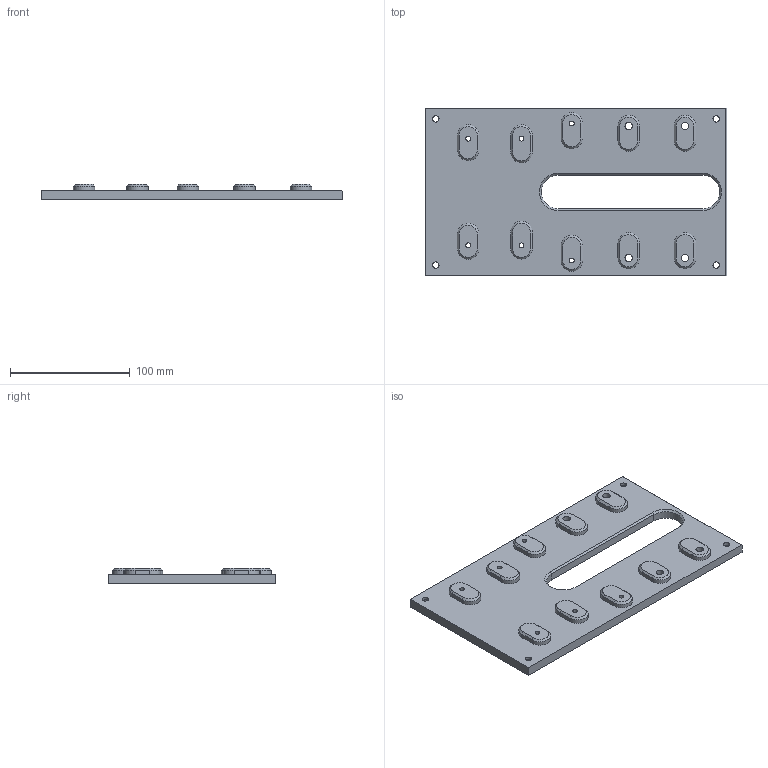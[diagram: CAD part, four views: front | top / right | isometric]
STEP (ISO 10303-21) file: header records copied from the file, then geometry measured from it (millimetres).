
FILE_DESCRIPTION(/* description */ (''),/* implementation_level */ '2;1');
FILE_NAME(/* name */ 'base.step',/* time_stamp */ '2026-06-03T23:55:42+01:00',/* author */ (''),/* organization */ (''),/* preprocessor_version */ 'ST-DEVELOPER v20.1',/* originating_system */ 'Autodesk Translation Framework v15.8.0.0',/* authorisation */ '');
FILE_SCHEMA (('AUTOMOTIVE_DESIGN { 1 0 10303 214 3 1 1 }'));
Length unit declared in the file: millimetre
Products named in the file (1): base
Bounding box: 252 x 140 x 13 mm (x, y, z)
Volume: 267406.3 mm3; surface area: 76830 mm2
Topology: 1 solids, 1 shells, 127 faces, 289 edges, 178 vertices
Faces by surface type: plane 65, cylinder 40, cone 22
Full cylindrical faces by diameter (mm): 4 x6, 5.3 x4, 6.2 x4, 12 x4
Entity records: 3629 total; most frequent: DIRECTION 644, CARTESIAN_POINT 604, ORIENTED_EDGE 578, EDGE_CURVE 289, AXIS2_PLACEMENT_3D 230, LINE 184, VECTOR 184, VERTEX_POINT 178
